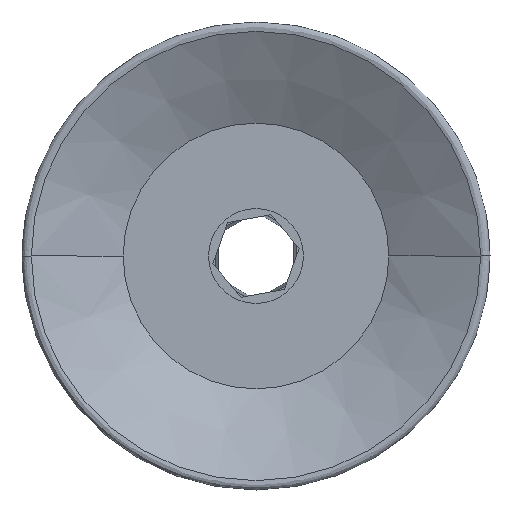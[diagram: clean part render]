
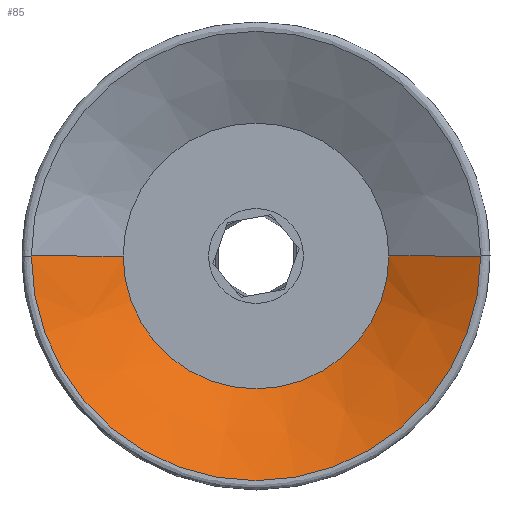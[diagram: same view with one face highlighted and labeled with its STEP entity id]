
A CAD part, front view. The second image highlights one B-rep face of the part: STEP entity #85.
In plain terms, the highlighted conical face has half-angle 61.52 degrees and reference radius 17.762 mm.
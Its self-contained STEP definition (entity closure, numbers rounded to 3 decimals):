
#85 = ADVANCED_FACE ( 'NONE', ( #772 ), #2737, .F. ) ;
#734 = LINE ( 'NONE', #15350, #11772 ) ;
#772 = FACE_OUTER_BOUND ( 'NONE', #8060, .T. ) ;
#863 = EDGE_CURVE ( 'NONE', #7877, #7364, #10765, .T. ) ;
#957 = EDGE_CURVE ( 'NONE', #7364, #11845, #734, .T. ) ;
#1049 = DIRECTION ( 'NONE',  ( 0.879, -0.477, 0. ) ) ;
#1647 = DIRECTION ( 'NONE',  ( 1., 0., 0. ) ) ;
#1807 = CARTESIAN_POINT ( 'NONE',  ( 0., -15.139, 0. ) ) ;
#2730 = CIRCLE ( 'NONE', #13313, 17.762 ) ;
#2737 = CONICAL_SURFACE ( 'NONE', #3756, 17.762, 1.074 ) ;
#3105 = CARTESIAN_POINT ( 'NONE',  ( 10.5, -11.2, 0. ) ) ;
#3746 = ORIENTED_EDGE ( 'NONE', *, *, #863, .F. ) ;
#3756 = AXIS2_PLACEMENT_3D ( 'NONE', #1807, #7744, #1647 ) ;
#4449 = CARTESIAN_POINT ( 'NONE',  ( -10.5, -11.2, 0. ) ) ;
#4893 = ORIENTED_EDGE ( 'NONE', *, *, #6851, .T. ) ;
#5664 = VECTOR ( 'NONE', #10154, 1000. ) ;
#5918 = ORIENTED_EDGE ( 'NONE', *, *, #14494, .F. ) ;
#6851 = EDGE_CURVE ( 'NONE', #7877, #13486, #10233, .T. ) ;
#6967 = CARTESIAN_POINT ( 'NONE',  ( 0., -15.139, 0. ) ) ;
#7364 = VERTEX_POINT ( 'NONE', #3105 ) ;
#7744 = DIRECTION ( 'NONE',  ( 0., -1., 0. ) ) ;
#7877 = VERTEX_POINT ( 'NONE', #4449 ) ;
#8060 = EDGE_LOOP ( 'NONE', ( #3746, #4893, #5918, #12065 ) ) ;
#9710 = CARTESIAN_POINT ( 'NONE',  ( 17.762, -15.139, 0. ) ) ;
#10019 = CARTESIAN_POINT ( 'NONE',  ( -17.762, -15.139, 0. ) ) ;
#10154 = DIRECTION ( 'NONE',  ( -0.879, -0.477, 0. ) ) ;
#10233 = LINE ( 'NONE', #11185, #5664 ) ;
#10765 = CIRCLE ( 'NONE', #12798, 10.5 ) ;
#11185 = CARTESIAN_POINT ( 'NONE',  ( -17.762, -15.139, 0. ) ) ;
#11239 = DIRECTION ( 'NONE',  ( 1., 0., 0. ) ) ;
#11772 = VECTOR ( 'NONE', #1049, 1000. ) ;
#11845 = VERTEX_POINT ( 'NONE', #9710 ) ;
#12065 = ORIENTED_EDGE ( 'NONE', *, *, #957, .F. ) ;
#12352 = CARTESIAN_POINT ( 'NONE',  ( 0., -11.2, 0. ) ) ;
#12650 = DIRECTION ( 'NONE',  ( -1., 0., 0. ) ) ;
#12666 = DIRECTION ( 'NONE',  ( 0., -1., 0. ) ) ;
#12798 = AXIS2_PLACEMENT_3D ( 'NONE', #12352, #12666, #11239 ) ;
#12809 = DIRECTION ( 'NONE',  ( 0., 1., 0. ) ) ;
#13313 = AXIS2_PLACEMENT_3D ( 'NONE', #6967, #12809, #12650 ) ;
#13486 = VERTEX_POINT ( 'NONE', #10019 ) ;
#14494 = EDGE_CURVE ( 'NONE', #11845, #13486, #2730, .T. ) ;
#15350 = CARTESIAN_POINT ( 'NONE',  ( 17.762, -15.139, 0. ) ) ;
